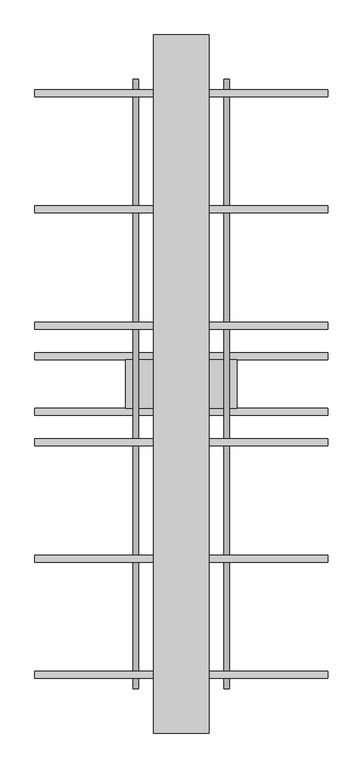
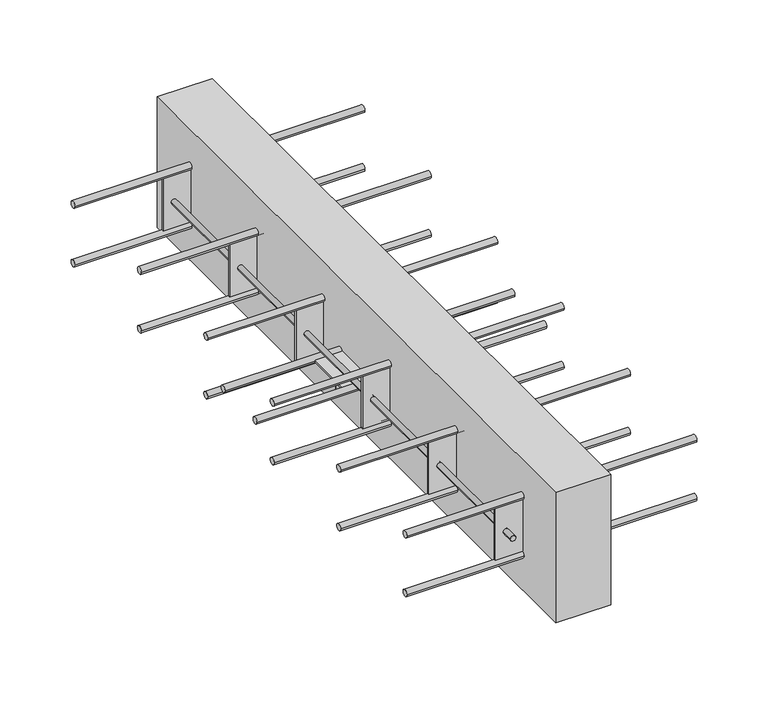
"""IFC4 building model written with IfcOpenShell, lengths in millimetres: proxy geometry, ACINOXplus_Typenreihe_Q : QE+ S1."""

import ifcopenshell
import ifcopenshell.guid

model = None  # the IFC model being written
_history = None  # IfcOwnerHistory: only IFC2X3 demands one
_inside = {}  # id of a spatial element -> (the spatial element, [elements in it])
_under = {}  # id of a project, library or spatial element -> (it, [spatial elements below it])
_declared = {}  # id of a project -> (the project, [libraries it declares])
_typed = {}  # id of a type object -> (the type object, [elements of that type])
_made_of = {}  # id of a material, layer set ... -> (it, [elements and type objects made of it])


def new_model(schema):
    """Start an empty IFC model of exactly this schema.

    Asked for "IFC4X3", IfcOpenShell would pick the latest addendum, in which some entities
    have other attributes; the version numbers below select the first issue.
    IFC2X3 requires an IfcOwnerHistory on every rooted entity: one is made here for all.
    """
    global model, _history
    if schema == "IFC4X3":
        model = ifcopenshell.file(schema_version=(4, 3, 0, 0))
    else:
        model = ifcopenshell.file(schema=schema)
    _inside.clear()
    _under.clear()
    _declared.clear()
    _typed.clear()
    _made_of.clear()
    _history = None
    if model.schema == "IFC2X3":
        org = make("IfcOrganization", Name="unknown")
        user = make(
            "IfcPersonAndOrganization",
            ThePerson=make("IfcPerson", FamilyName="unknown"),
            TheOrganization=org,
        )
        app = make(
            "IfcApplication",
            ApplicationDeveloper=org,
            Version="unknown",
            ApplicationFullName="unknown",
            ApplicationIdentifier="unknown",
        )
        _history = make(
            "IfcOwnerHistory",
            OwningUser=user,
            OwningApplication=app,
            ChangeAction="ADDED",
            CreationDate=0,
        )
    return model


def make(cls, **values):
    """One entity of the class cls with the attributes given. An attribute that is None is left unset."""
    return model.create_entity(
        cls, **{name: value for name, value in values.items() if value is not None}
    )


def rooted(cls, **values):
    """An entity with a GlobalId (a new one), such as an element, a storey or a relation."""
    return make(cls, GlobalId=ifcopenshell.guid.new(), OwnerHistory=_history, **values)


def si_unit(unit_type, name, prefix=None):
    """IfcSIUnit, for example si_unit("LENGTHUNIT", "METRE", prefix="MILLI")."""
    return make("IfcSIUnit", UnitType=unit_type, Prefix=prefix, Name=name)


def assignment(units):
    """IfcUnitAssignment: the units of a project."""
    return None if units is None else make("IfcUnitAssignment", Units=units)


def point(xyz):
    """IfcCartesianPoint."""
    return None if xyz is None else make("IfcCartesianPoint", Coordinates=xyz)


def direction(xyz):
    """IfcDirection."""
    return None if xyz is None else make("IfcDirection", DirectionRatios=xyz)


def frame(location, z_axis=None, x_axis=None):
    """IfcAxis2Placement3D, a coordinate frame: its origin and axes. An axis left out is left unset."""
    return make(
        "IfcAxis2Placement3D",
        Location=point(location),
        Axis=direction(z_axis),
        RefDirection=direction(x_axis),
    )


def frame_2d(location, x_axis=None):
    """IfcAxis2Placement2D, a coordinate frame in the plane: its origin and x axis."""
    return make(
        "IfcAxis2Placement2D", Location=point(location), RefDirection=direction(x_axis)
    )


def origin():
    """The frame at (0, 0, 0) with its axes left unset."""
    return frame((0.0, 0.0, 0.0))


def place(relative_to, where):
    """IfcLocalPlacement: puts the frame where relative to a parent placement (None: the world)."""
    return make(
        "IfcLocalPlacement", PlacementRelTo=relative_to, RelativePlacement=where
    )


def context(
    kind, dimensions, precision=None, world=None, true_north=None, identifier=None
):
    """IfcGeometricRepresentationContext, for example the 3D "Model" context."""
    return make(
        "IfcGeometricRepresentationContext",
        ContextIdentifier=identifier,
        ContextType=kind,
        CoordinateSpaceDimension=dimensions,
        Precision=precision,
        WorldCoordinateSystem=world,
        TrueNorth=true_north,
    )


def project(units=None, contexts=None):
    """IfcProject with its units and contexts."""
    return rooted(
        "IfcProject",
        Name="project",
        RepresentationContexts=contexts,
        UnitsInContext=assignment(units),
    )


def spatial(cls, under=None, at=None, **own):
    """A site, building, storey or space (cls), placed at a placement, below another one or the project."""
    s = rooted(cls, ObjectPlacement=at, **own)
    if under is not None:
        _under.setdefault(under.id(), (under, []))[1].append(s)
    return s


def polyline(points):
    """IfcPolyline through the points."""
    return make("IfcPolyline", Points=[point(p) for p in points])


def circle_curve(where, radius):
    """IfcCircle in the frame where."""
    return make("IfcCircle", Position=where, Radius=radius)


def trimmed(basis, trim1, trim2, sense, master):
    """IfcTrimmedCurve: the piece of a basis curve between two trims."""
    return make(
        "IfcTrimmedCurve",
        BasisCurve=basis,
        Trim1=trim1,
        Trim2=trim2,
        SenseAgreement=sense,
        MasterRepresentation=master,
    )


def segment(curve, same_sense, transition):
    """IfcCompositeCurveSegment."""
    return make(
        "IfcCompositeCurveSegment",
        Transition=transition,
        SameSense=same_sense,
        ParentCurve=curve,
    )


def composite_curve(segments, self_intersect=None):
    """IfcCompositeCurve: segments joined end to end."""
    return make("IfcCompositeCurve", Segments=segments, SelfIntersect=self_intersect)


def outline(outer, holes=None, kind="AREA"):
    """IfcArbitraryClosedProfileDef: a profile drawn as a closed curve; with holes, ...WithVoids."""
    if holes is None:
        return make("IfcArbitraryClosedProfileDef", ProfileType=kind, OuterCurve=outer)
    return make(
        "IfcArbitraryProfileDefWithVoids",
        ProfileType=kind,
        OuterCurve=outer,
        InnerCurves=holes,
    )


def extrude(swept, where, along, depth):
    """IfcExtrudedAreaSolid: the profile swept, set in the frame where, extruded along a direction by depth."""
    return make(
        "IfcExtrudedAreaSolid",
        SweptArea=swept,
        Position=where,
        ExtrudedDirection=direction(along),
        Depth=depth,
    )


def shape(context_of_items, identifier, shape_type, items):
    """IfcShapeRepresentation: the items that make up one representation, for example the "Body"."""
    return make(
        "IfcShapeRepresentation",
        ContextOfItems=context_of_items,
        RepresentationIdentifier=identifier,
        RepresentationType=shape_type,
        Items=items,
    )


def source(mapping_origin, context_of_items, identifier, shape_type, items):
    """IfcRepresentationMap: a shape defined once, which mapped items show again and again."""
    return make(
        "IfcRepresentationMap",
        MappingOrigin=mapping_origin,
        MappedRepresentation=shape(context_of_items, identifier, shape_type, items),
    )


def transform(
    local_origin,
    x_axis=None,
    y_axis=None,
    z_axis=None,
    scale=None,
    scale2=None,
    scale3=None,
    uniform=True,
):
    """IfcCartesianTransformationOperator3D, or its non-uniform kind. x_axis, y_axis, z_axis: its Axis1, 2, 3."""
    if uniform:
        return make(
            "IfcCartesianTransformationOperator3D",
            Axis1=direction(x_axis),
            Axis2=direction(y_axis),
            LocalOrigin=point(local_origin),
            Scale=scale,
            Axis3=direction(z_axis),
        )
    return make(
        "IfcCartesianTransformationOperator3DnonUniform",
        Axis1=direction(x_axis),
        Axis2=direction(y_axis),
        LocalOrigin=point(local_origin),
        Scale=scale,
        Axis3=direction(z_axis),
        Scale2=scale2,
        Scale3=scale3,
    )


def mapped(mapping_source, mapping_target):
    """IfcMappedItem: shows the shape of a source again, moved by a transform."""
    return make(
        "IfcMappedItem", MappingSource=mapping_source, MappingTarget=mapping_target
    )


def made_of(thing, what):
    """Note that an element or type object is made of a material, layer set ...; save() writes the relation."""
    if what is not None:
        _made_of.setdefault(what.id(), (what, []))[1].append(thing)
    return thing


def element(
    cls,
    number,
    at=None,
    inside=None,
    cuts=None,
    type_object=None,
    material=None,
    context=None,
    identifier="Body",
    shape_type=None,
    held_by="IfcProductDefinitionShape",
    body=None,
    shapes=None,
    **own,
):
    """One element of the class cls, such as IfcWall. Its Tag is "e" and its number.

    at: its placement. inside: the storey or other place that contains it. cuts: it is an
    opening in that element (IfcRelVoidsElement). A single representation is given by context,
    identifier, shape_type and body (its items); several are given by shapes. held_by: the class
    of the entity that holds the representations. save() writes the other relations.
    """
    e = rooted(cls, Tag="e%d" % number, ObjectPlacement=at, **own)
    if body is not None:
        shapes = [shape(context, identifier, shape_type, body)]
    if shapes is not None:
        e.Representation = make(held_by, Representations=shapes)
    if inside is not None:
        _inside.setdefault(inside.id(), (inside, []))[1].append(e)
    if cuts is not None:
        rooted(
            "IfcRelVoidsElement", RelatingBuildingElement=cuts, RelatedOpeningElement=e
        )
    if type_object is not None:
        _typed.setdefault(type_object.id(), (type_object, []))[1].append(e)
    return made_of(e, material)


def aggregate(whole, parts):
    """IfcRelAggregates: a whole, such as a stair, and the parts it consists of."""
    return rooted("IfcRelAggregates", RelatingObject=whole, RelatedObjects=parts)


def save(model, path):
    """Write the relations noted so far, then the file.

    IfcRelAggregates (storeys below a building ...), IfcRelContainedInSpatialStructure (elements
    in a storey), IfcRelDefinesByType, IfcRelAssociatesMaterial and IfcRelDeclares: one each for
    every whole, place, type object, material and project.
    """
    for whole, parts in _under.values():
        aggregate(whole, parts)
    for where, things in _inside.values():
        rooted(
            "IfcRelContainedInSpatialStructure",
            RelatedElements=things,
            RelatingStructure=where,
        )
    for kind, things in _typed.values():
        rooted("IfcRelDefinesByType", RelatedObjects=things, RelatingType=kind)
    for what, things in _made_of.values():
        rooted("IfcRelAssociatesMaterial", RelatedObjects=things, RelatingMaterial=what)
    for by, libraries in _declared.values():
        rooted("IfcRelDeclares", RelatingContext=by, RelatedDefinitions=libraries)
    model.write(path)


def plane_surface(at):
    """IfcPlane: the flat surface through the origin of the frame at, square to its z axis."""
    return make("IfcPlane", Position=at)


def cylinder_surface(at, radius):
    """IfcCylindricalSurface: all points at the distance radius from the z axis of the frame at."""
    return make("IfcCylindricalSurface", Position=at, Radius=radius)


def advanced_brep(points, edges, surfaces, faces):
    """IfcAdvancedBrep: a solid bounded by faces that lie on surfaces and meet in shared edges.

    An edge is (start, end): straight between two places in points (the first is 0);
    or (start, end, curve); or (start, end, curve, False) where it runs against its curve.
    A face is (place in surfaces, loops), or (place, loops, False) where it looks against
    its surface's normal. A loop lists edges by number (the first is 1), with a minus sign
    where the edge is run from its end to its start. The first loop is the outer one.
    """
    corners = [point(p) for p in points]
    vertices = [make("IfcVertexPoint", VertexGeometry=c) for c in corners]
    made = []
    for start, end, *more in edges:
        made.append(
            make(
                "IfcEdgeCurve",
                EdgeStart=vertices[start],
                EdgeEnd=vertices[end],
                EdgeGeometry=more[0] if more else make("IfcPolyline", Points=[corners[start], corners[end]]),
                SameSense=more[1] if len(more) > 1 else True,
            )
        )
    hull = []
    for where, loops, *sense in faces:
        bounds = []
        for j, loop in enumerate(loops):
            ring = [make("IfcOrientedEdge", EdgeElement=made[abs(k) - 1], Orientation=k > 0) for k in loop]
            bounds.append(
                make(
                    "IfcFaceOuterBound" if j == 0 else "IfcFaceBound",
                    Bound=make("IfcEdgeLoop", EdgeList=ring),
                    Orientation=True,
                )
            )
        hull.append(make("IfcAdvancedFace", Bounds=bounds, FaceSurface=surfaces[where], SameSense=sense[0] if sense else True))
    return make("IfcAdvancedBrep", Outer=make("IfcClosedShell", CfsFaces=hull))


def generic_models_d2001745(model_context):
    return source(origin(), model_context, "Body", "SolidModel", [
        extrude(outline(polyline([(40.0, 500.0), (40.0, -500.0), (-40.0, -500.0), (-40.0, 500.0), (40.0, 500.0)])), frame((0.0, 0.0, -200.0), z_axis=(0.0, 0.0, 1.0), x_axis=(1.0, 0.0, 0.0)), (0.0, 0.0, 1.0), 200.0),
        extrude(outline(composite_curve([segment(trimmed(circle_curve(frame_2d((-40.0, -109.0)), 5.0), [point((-45.0, -109.0))], [point((-35.0, -109.0))], False, "CARTESIAN"), True, "CONTINUOUS"), segment(trimmed(circle_curve(frame_2d((-40.0, -109.0)), 5.0), [point((-35.0, -109.0))], [point((-45.0, -109.0))], False, "CARTESIAN"), True, "CONTINUOUS")], self_intersect=False)), frame((-210.0, 0.0, 0.0), z_axis=(1.0, 0.0, 0.0), x_axis=(0.0, 1.0, 0.0)), (0.0, 0.0, 1.0), 420.0),
        extrude(outline(composite_curve([segment(trimmed(circle_curve(frame_2d((40.0, -109.0)), 5.0), [point((35.0, -109.0))], [point((45.0, -109.0))], False, "CARTESIAN"), True, "CONTINUOUS"), segment(trimmed(circle_curve(frame_2d((40.0, -109.0)), 5.0), [point((45.0, -109.0))], [point((35.0, -109.0))], False, "CARTESIAN"), True, "CONTINUOUS")], self_intersect=False)), frame((-210.0, 0.0, 0.0), z_axis=(1.0, 0.0, 0.0), x_axis=(0.0, 1.0, 0.0)), (0.0, 0.0, 1.0), 420.0),
        advanced_brep(
        [(-69.0, 0.0, -137.0), (-61.0, 0.0, -137.0), (61.0, 0.0, -137.0), (69.0, 0.0, -137.0), (-61.0, 0.0, -110.5), (-69.0, 0.0, -110.5), (69.0, 0.0, -110.5), (61.0, 0.0, -110.5), (80.0, 35.0, -107.5), (-80.0, 35.0, -107.5), (-80.0, -35.0, -107.5), (80.0, -35.0, -107.5), (80.0, 35.0, -110.5), (80.0, -35.0, -110.5), (-80.0, -35.0, -110.5), (-80.0, 35.0, -110.5)],
        [
            (0, 1, circle_curve(frame((-65.0, 0.0, -137.0), z_axis=(0.0, 0.0, -1.0), x_axis=(1.0, 0.0, 0.0)), 4.0)),
            (1, 0, circle_curve(frame((-65.0, 0.0, -137.0), z_axis=(0.0, 0.0, -1.0), x_axis=(1.0, 0.0, 0.0)), 4.0)),
            (2, 3, circle_curve(frame((65.0, 0.0, -137.0), z_axis=(0.0, 0.0, -1.0), x_axis=(1.0, 0.0, 0.0)), 4.0)),
            (3, 2, circle_curve(frame((65.0, 0.0, -137.0), z_axis=(0.0, 0.0, -1.0), x_axis=(1.0, 0.0, 0.0)), 4.0)),
            (1, 4),
            (4, 5, circle_curve(frame((-65.0, 0.0, -110.5), z_axis=(0.0, 0.0, -1.0), x_axis=(1.0, 0.0, 0.0)), 4.0)),
            (5, 0),
            (5, 4, circle_curve(frame((-65.0, 0.0, -110.5), z_axis=(0.0, 0.0, -1.0), x_axis=(1.0, 0.0, 0.0)), 4.0)),
            (3, 6),
            (6, 7, circle_curve(frame((65.0, 0.0, -110.5), z_axis=(0.0, 0.0, -1.0), x_axis=(1.0, 0.0, 0.0)), 4.0)),
            (7, 2),
            (7, 6, circle_curve(frame((65.0, 0.0, -110.5), z_axis=(0.0, 0.0, -1.0), x_axis=(1.0, 0.0, 0.0)), 4.0)),
            (8, 9),
            (9, 10),
            (10, 11),
            (11, 8),
            (12, 13),
            (13, 14),
            (14, 15),
            (15, 12),
            (8, 12),
            (15, 9),
            (14, 10),
            (13, 11),
        ],
        [
            plane_surface(frame((-61.0, 0.0, -137.0), z_axis=(0.0, 0.0, -1.0), x_axis=(0.0, -1.0, 0.0))),
            cylinder_surface(frame((-65.0, 0.0, -137.0), z_axis=(0.0, 0.0, 1.0), x_axis=(1.0, 0.0, 0.0)), 4.0),
            cylinder_surface(frame((65.0, 0.0, -109.0), z_axis=(0.0, 0.0, 1.0), x_axis=(1.0, 0.0, 0.0)), 4.0),
            plane_surface(frame((-80.0, 35.0, -107.5), z_axis=(0.0, 0.0, 1.0), x_axis=(-1.0, 0.0, 0.0))),
            plane_surface(frame((-80.0, 35.0, -110.5), z_axis=(0.0, 0.0, -1.0), x_axis=(1.0, 0.0, 0.0))),
            plane_surface(frame((80.0, 35.0, -107.5), z_axis=(0.0, 1.0, 0.0), x_axis=(0.0, 0.0, -1.0))),
            plane_surface(frame((-80.0, 35.0, -107.5), z_axis=(-1.0, 0.0, 0.0), x_axis=(0.0, 0.0, -1.0))),
            plane_surface(frame((-80.0, -35.0, -107.5), z_axis=(0.0, -1.0, 0.0), x_axis=(0.0, 0.0, -1.0))),
            plane_surface(frame((80.0, -35.0, -107.5), z_axis=(1.0, 0.0, 0.0), x_axis=(0.0, 0.0, -1.0))),
        ],
        [
            (0, [[1, 2]]),
            (0, [[3, 4]]),
            (1, [[-2, 5, 6, 7]]),
            (1, [[-1, -7, 8, -5]]),
            (2, [[-4, 9, 10, 11]]),
            (2, [[-3, -11, 12, -9]]),
            (3, [[13, 14, 15, 16]]),
            (4, [[17, 18, 19, 20], [-6, -8], [-10, -12]]),
            (5, [[-13, 21, -20, 22]]),
            (6, [[-14, -22, -19, 23]]),
            (7, [[-15, -23, -18, 24]]),
            (8, [[-16, -24, -17, -21]]),
        ],
    ),
        extrude(outline(polyline([(80.0, -248.5), (80.0, -251.5), (-80.0, -251.5), (-80.0, -248.5), (80.0, -248.5)])), frame((0.0, 0.0, -140.0), z_axis=(0.0, 0.0, 1.0), x_axis=(1.0, 0.0, 0.0)), (0.0, 0.0, 1.0), 80.0),
        extrude(outline(polyline([(80.0, -81.8333333), (80.0, -84.8333333), (-80.0, -84.8333333), (-80.0, -81.8333333), (80.0, -81.8333333)])), frame((0.0, 0.0, -140.0), z_axis=(0.0, 0.0, 1.0), x_axis=(1.0, 0.0, 0.0)), (0.0, 0.0, 1.0), 80.0),
        extrude(outline(polyline([(80.0, 84.8333333), (80.0, 81.8333333), (-80.0, 81.8333333), (-80.0, 84.8333333), (80.0, 84.8333333)])), frame((0.0, 0.0, -140.0), z_axis=(0.0, 0.0, 1.0), x_axis=(1.0, 0.0, 0.0)), (0.0, 0.0, 1.0), 80.0),
        extrude(outline(polyline([(80.0, 251.5), (80.0, 248.5), (-80.0, 248.5), (-80.0, 251.5), (80.0, 251.5)])), frame((0.0, 0.0, -140.0), z_axis=(0.0, 0.0, 1.0), x_axis=(1.0, 0.0, 0.0)), (0.0, 0.0, 1.0), 80.0),
        extrude(outline(polyline([(80.0, -415.1666667), (80.0, -418.1666667), (-80.0, -418.1666667), (-80.0, -415.1666667), (80.0, -415.1666667)])), frame((0.0, 0.0, -140.0), z_axis=(0.0, 0.0, 1.0), x_axis=(1.0, 0.0, 0.0)), (0.0, 0.0, 1.0), 80.0),
        extrude(outline(polyline([(80.0, 418.1666667), (80.0, 415.1666667), (-80.0, 415.1666667), (-80.0, 418.1666667), (80.0, 418.1666667)])), frame((0.0, 0.0, -140.0), z_axis=(0.0, 0.0, 1.0), x_axis=(1.0, 0.0, 0.0)), (0.0, 0.0, 1.0), 80.0),
        extrude(outline(composite_curve([segment(trimmed(circle_curve(frame_2d((-100.0, -65.0)), 4.0), [point((-100.0, -69.0))], [point((-100.0, -61.0))], False, "CARTESIAN"), True, "CONTINUOUS"), segment(trimmed(circle_curve(frame_2d((-100.0, -65.0)), 4.0), [point((-100.0, -61.0))], [point((-100.0, -69.0))], False, "CARTESIAN"), True, "CONTINUOUS")], self_intersect=False)), frame((0.0, -415.1666667, 0.0), z_axis=(0.0, 1.0, 0.0), x_axis=(0.0, 0.0, 1.0)), (0.0, 0.0, 1.0), 663.6666667),
        extrude(outline(composite_curve([segment(trimmed(circle_curve(frame_2d((-100.0, -65.0)), 4.0), [point((-100.0, -69.0))], [point((-100.0, -61.0))], False, "CARTESIAN"), True, "CONTINUOUS"), segment(trimmed(circle_curve(frame_2d((-100.0, -65.0)), 4.0), [point((-100.0, -61.0))], [point((-100.0, -69.0))], False, "CARTESIAN"), True, "CONTINUOUS")], self_intersect=False)), frame((0.0, 418.1666667, 0.0), z_axis=(0.0, 1.0, 0.0), x_axis=(0.0, 0.0, 1.0)), (0.0, 0.0, 1.0), 18.5),
        extrude(outline(composite_curve([segment(trimmed(circle_curve(frame_2d((-100.0, -65.0)), 4.0), [point((-100.0, -61.0))], [point((-100.0, -69.0))], False, "CARTESIAN"), True, "CONTINUOUS"), segment(trimmed(circle_curve(frame_2d((-100.0, -65.0)), 4.0), [point((-100.0, -69.0))], [point((-100.0, -61.0))], False, "CARTESIAN"), True, "CONTINUOUS")], self_intersect=False)), frame((0.0, -436.6666667, 0.0), z_axis=(0.0, 1.0, 0.0), x_axis=(0.0, 0.0, 1.0)), (0.0, 0.0, 1.0), 18.5),
        extrude(outline(composite_curve([segment(trimmed(circle_curve(frame_2d((-100.0, -65.0)), 4.0), [point((-100.0, -69.0))], [point((-100.0, -61.0))], False, "CARTESIAN"), True, "CONTINUOUS"), segment(trimmed(circle_curve(frame_2d((-100.0, -65.0)), 4.0), [point((-100.0, -61.0))], [point((-100.0, -69.0))], False, "CARTESIAN"), True, "CONTINUOUS")], self_intersect=False)), frame((0.0, 251.5, 0.0), z_axis=(0.0, 1.0, 0.0), x_axis=(0.0, 0.0, 1.0)), (0.0, 0.0, 1.0), 163.6666667),
        extrude(outline(composite_curve([segment(trimmed(circle_curve(frame_2d((-100.0, 65.0)), 4.0), [point((-100.0, 61.0))], [point((-100.0, 69.0))], False, "CARTESIAN"), True, "CONTINUOUS"), segment(trimmed(circle_curve(frame_2d((-100.0, 65.0)), 4.0), [point((-100.0, 69.0))], [point((-100.0, 61.0))], False, "CARTESIAN"), True, "CONTINUOUS")], self_intersect=False)), frame((0.0, -415.1666667, 0.0), z_axis=(0.0, 1.0, 0.0), x_axis=(0.0, 0.0, 1.0)), (0.0, 0.0, 1.0), 663.6666667),
        extrude(outline(composite_curve([segment(trimmed(circle_curve(frame_2d((-100.0, 65.0)), 4.0), [point((-100.0, 61.0))], [point((-100.0, 69.0))], False, "CARTESIAN"), True, "CONTINUOUS"), segment(trimmed(circle_curve(frame_2d((-100.0, 65.0)), 4.0), [point((-100.0, 69.0))], [point((-100.0, 61.0))], False, "CARTESIAN"), True, "CONTINUOUS")], self_intersect=False)), frame((0.0, 418.1666667, 0.0), z_axis=(0.0, 1.0, 0.0), x_axis=(0.0, 0.0, 1.0)), (0.0, 0.0, 1.0), 18.5),
        extrude(outline(composite_curve([segment(trimmed(circle_curve(frame_2d((-100.0, 65.0)), 4.0), [point((-100.0, 69.0))], [point((-100.0, 61.0))], False, "CARTESIAN"), True, "CONTINUOUS"), segment(trimmed(circle_curve(frame_2d((-100.0, 65.0)), 4.0), [point((-100.0, 61.0))], [point((-100.0, 69.0))], False, "CARTESIAN"), True, "CONTINUOUS")], self_intersect=False)), frame((0.0, -436.6666667, 0.0), z_axis=(0.0, 1.0, 0.0), x_axis=(0.0, 0.0, 1.0)), (0.0, 0.0, 1.0), 18.5),
        extrude(outline(composite_curve([segment(trimmed(circle_curve(frame_2d((-100.0, 65.0)), 4.0), [point((-100.0, 61.0))], [point((-100.0, 69.0))], False, "CARTESIAN"), True, "CONTINUOUS"), segment(trimmed(circle_curve(frame_2d((-100.0, 65.0)), 4.0), [point((-100.0, 69.0))], [point((-100.0, 61.0))], False, "CARTESIAN"), True, "CONTINUOUS")], self_intersect=False)), frame((0.0, 251.5, 0.0), z_axis=(0.0, 1.0, 0.0), x_axis=(0.0, 0.0, 1.0)), (0.0, 0.0, 1.0), 163.6666667),
        extrude(outline(composite_curve([segment(trimmed(circle_curve(frame_2d((83.3333333, -145.0)), 5.0), [point((78.3333333, -145.0))], [point((88.3333333, -145.0))], False, "CARTESIAN"), True, "CONTINUOUS"), segment(trimmed(circle_curve(frame_2d((83.3333333, -145.0)), 5.0), [point((88.3333333, -145.0))], [point((78.3333333, -145.0))], False, "CARTESIAN"), True, "CONTINUOUS")], self_intersect=False)), frame((-210.0, 0.0, 0.0), z_axis=(1.0, 0.0, 0.0), x_axis=(0.0, 1.0, 0.0)), (0.0, 0.0, 1.0), 420.0),
        extrude(outline(composite_curve([segment(trimmed(circle_curve(frame_2d((-83.3333333, -145.0)), 5.0), [point((-88.3333333, -145.0))], [point((-78.3333333, -145.0))], False, "CARTESIAN"), True, "CONTINUOUS"), segment(trimmed(circle_curve(frame_2d((-83.3333333, -145.0)), 5.0), [point((-78.3333333, -145.0))], [point((-88.3333333, -145.0))], False, "CARTESIAN"), True, "CONTINUOUS")], self_intersect=False)), frame((-210.0, 0.0, 0.0), z_axis=(1.0, 0.0, 0.0), x_axis=(0.0, 1.0, 0.0)), (0.0, 0.0, 1.0), 420.0),
        extrude(outline(composite_curve([segment(trimmed(circle_curve(frame_2d((250.0, -145.0)), 5.0), [point((245.0, -145.0))], [point((255.0, -145.0))], False, "CARTESIAN"), True, "CONTINUOUS"), segment(trimmed(circle_curve(frame_2d((250.0, -145.0)), 5.0), [point((255.0, -145.0))], [point((245.0, -145.0))], False, "CARTESIAN"), True, "CONTINUOUS")], self_intersect=False)), frame((-210.0, 0.0, 0.0), z_axis=(1.0, 0.0, 0.0), x_axis=(0.0, 1.0, 0.0)), (0.0, 0.0, 1.0), 420.0),
        extrude(outline(composite_curve([segment(trimmed(circle_curve(frame_2d((416.6666667, -145.0)), 5.0), [point((411.6666667, -145.0))], [point((421.6666667, -145.0))], False, "CARTESIAN"), True, "CONTINUOUS"), segment(trimmed(circle_curve(frame_2d((416.6666667, -145.0)), 5.0), [point((421.6666667, -145.0))], [point((411.6666667, -145.0))], False, "CARTESIAN"), True, "CONTINUOUS")], self_intersect=False)), frame((-210.0, 0.0, 0.0), z_axis=(1.0, 0.0, 0.0), x_axis=(0.0, 1.0, 0.0)), (0.0, 0.0, 1.0), 420.0),
        extrude(outline(composite_curve([segment(trimmed(circle_curve(frame_2d((-250.0, -145.0)), 5.0), [point((-255.0, -145.0))], [point((-245.0, -145.0))], False, "CARTESIAN"), True, "CONTINUOUS"), segment(trimmed(circle_curve(frame_2d((-250.0, -145.0)), 5.0), [point((-245.0, -145.0))], [point((-255.0, -145.0))], False, "CARTESIAN"), True, "CONTINUOUS")], self_intersect=False)), frame((-210.0, 0.0, 0.0), z_axis=(1.0, 0.0, 0.0), x_axis=(0.0, 1.0, 0.0)), (0.0, 0.0, 1.0), 420.0),
        extrude(outline(composite_curve([segment(trimmed(circle_curve(frame_2d((-416.6666667, -145.0)), 5.0), [point((-421.6666667, -145.0))], [point((-411.6666667, -145.0))], False, "CARTESIAN"), True, "CONTINUOUS"), segment(trimmed(circle_curve(frame_2d((-416.6666667, -145.0)), 5.0), [point((-411.6666667, -145.0))], [point((-421.6666667, -145.0))], False, "CARTESIAN"), True, "CONTINUOUS")], self_intersect=False)), frame((-210.0, 0.0, 0.0), z_axis=(1.0, 0.0, 0.0), x_axis=(0.0, 1.0, 0.0)), (0.0, 0.0, 1.0), 420.0),
        extrude(outline(composite_curve([segment(trimmed(circle_curve(frame_2d((83.3333333, -55.0)), 5.0), [point((78.3333333, -55.0))], [point((88.3333333, -55.0))], False, "CARTESIAN"), True, "CONTINUOUS"), segment(trimmed(circle_curve(frame_2d((83.3333333, -55.0)), 5.0), [point((88.3333333, -55.0))], [point((78.3333333, -55.0))], False, "CARTESIAN"), True, "CONTINUOUS")], self_intersect=False)), frame((-210.0, 0.0, 0.0), z_axis=(1.0, 0.0, 0.0), x_axis=(0.0, 1.0, 0.0)), (0.0, 0.0, 1.0), 420.0),
        extrude(outline(composite_curve([segment(trimmed(circle_curve(frame_2d((-83.3333333, -55.0)), 5.0), [point((-88.3333333, -55.0))], [point((-78.3333333, -55.0))], False, "CARTESIAN"), True, "CONTINUOUS"), segment(trimmed(circle_curve(frame_2d((-83.3333333, -55.0)), 5.0), [point((-78.3333333, -55.0))], [point((-88.3333333, -55.0))], False, "CARTESIAN"), True, "CONTINUOUS")], self_intersect=False)), frame((-210.0, 0.0, 0.0), z_axis=(1.0, 0.0, 0.0), x_axis=(0.0, 1.0, 0.0)), (0.0, 0.0, 1.0), 420.0),
        extrude(outline(composite_curve([segment(trimmed(circle_curve(frame_2d((250.0, -55.0)), 5.0), [point((245.0, -55.0))], [point((255.0, -55.0))], False, "CARTESIAN"), True, "CONTINUOUS"), segment(trimmed(circle_curve(frame_2d((250.0, -55.0)), 5.0), [point((255.0, -55.0))], [point((245.0, -55.0))], False, "CARTESIAN"), True, "CONTINUOUS")], self_intersect=False)), frame((-210.0, 0.0, 0.0), z_axis=(1.0, 0.0, 0.0), x_axis=(0.0, 1.0, 0.0)), (0.0, 0.0, 1.0), 420.0),
        extrude(outline(composite_curve([segment(trimmed(circle_curve(frame_2d((416.6666667, -55.0)), 5.0), [point((411.6666667, -55.0))], [point((421.6666667, -55.0))], False, "CARTESIAN"), True, "CONTINUOUS"), segment(trimmed(circle_curve(frame_2d((416.6666667, -55.0)), 5.0), [point((421.6666667, -55.0))], [point((411.6666667, -55.0))], False, "CARTESIAN"), True, "CONTINUOUS")], self_intersect=False)), frame((-210.0, 0.0, 0.0), z_axis=(1.0, 0.0, 0.0), x_axis=(0.0, 1.0, 0.0)), (0.0, 0.0, 1.0), 420.0),
        extrude(outline(composite_curve([segment(trimmed(circle_curve(frame_2d((-250.0, -55.0)), 5.0), [point((-255.0, -55.0))], [point((-245.0, -55.0))], False, "CARTESIAN"), True, "CONTINUOUS"), segment(trimmed(circle_curve(frame_2d((-250.0, -55.0)), 5.0), [point((-245.0, -55.0))], [point((-255.0, -55.0))], False, "CARTESIAN"), True, "CONTINUOUS")], self_intersect=False)), frame((-210.0, 0.0, 0.0), z_axis=(1.0, 0.0, 0.0), x_axis=(0.0, 1.0, 0.0)), (0.0, 0.0, 1.0), 420.0),
        extrude(outline(composite_curve([segment(trimmed(circle_curve(frame_2d((-416.6666667, -55.0)), 5.0), [point((-421.6666667, -55.0))], [point((-411.6666667, -55.0))], False, "CARTESIAN"), True, "CONTINUOUS"), segment(trimmed(circle_curve(frame_2d((-416.6666667, -55.0)), 5.0), [point((-411.6666667, -55.0))], [point((-421.6666667, -55.0))], False, "CARTESIAN"), True, "CONTINUOUS")], self_intersect=False)), frame((-210.0, 0.0, 0.0), z_axis=(1.0, 0.0, 0.0), x_axis=(0.0, 1.0, 0.0)), (0.0, 0.0, 1.0), 420.0),
    ])


if __name__ == "__main__":
    model = new_model("IFC4")
    model_context = context("Model", 3, world=origin())
    ifc_project = project(units=[si_unit("LENGTHUNIT", "METRE", prefix="MILLI")], contexts=[model_context])
    site = spatial("IfcSite", under=ifc_project)
    building = spatial("IfcBuilding", under=site)
    placement = place(None, origin())
    generic_models_shape = generic_models_d2001745(model_context)
    element("IfcBuildingElementProxy", 1, Name="ACINOXplus_Typenreihe_Q : QE+ S1", ObjectType="ACINOXplus_Typenreihe_Q : QE+ S1", at=placement, inside=building, context=model_context, shape_type="MappedRepresentation", body=[
        mapped(generic_models_shape, transform((0.0, 0.0, 0.0), x_axis=(1.0, 0.0, 0.0), y_axis=(0.0, 1.0, 0.0), z_axis=(0.0, 0.0, 1.0))),
    ])
    save(model, "model.ifc")
